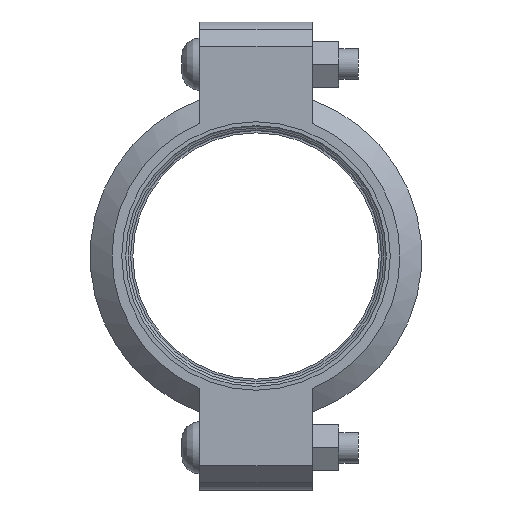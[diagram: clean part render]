
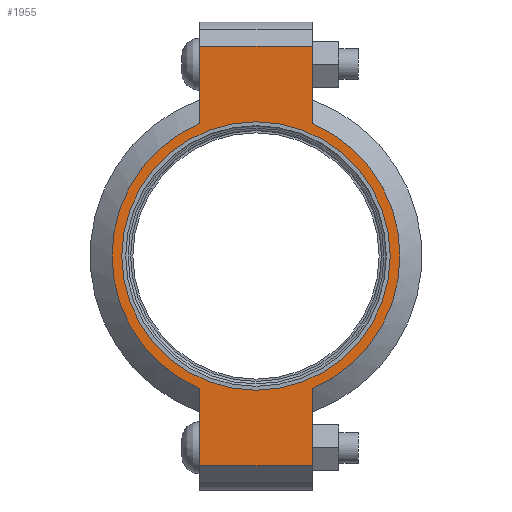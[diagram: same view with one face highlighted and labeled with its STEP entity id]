
A CAD part, left-side view. The second image highlights one B-rep face of the part: STEP entity #1955.
In plain terms, the highlighted planar face has unit normal (-1, 0, 0) as drawn and (0, 0, 1) by its records, which use the part's own axes.
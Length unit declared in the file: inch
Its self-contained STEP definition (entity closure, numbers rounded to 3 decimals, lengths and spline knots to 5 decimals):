
#144=LINE('',#3465,#241);
#152=LINE('',#3501,#249);
#159=LINE('',#3522,#256);
#168=LINE('',#3554,#265);
#169=LINE('',#3558,#266);
#170=LINE('',#3560,#267);
#241=VECTOR('',#2825,0.3937);
#249=VECTOR('',#2841,0.3937);
#256=VECTOR('',#2860,0.3937);
#265=VECTOR('',#2885,0.3937);
#266=VECTOR('',#2890,0.3937);
#267=VECTOR('',#2891,0.3937);
#323=FACE_BOUND('',#573,.T.);
#367=PLANE('',#2294);
#455=FACE_OUTER_BOUND('',#572,.T.);
#572=EDGE_LOOP('',(#1676,#1677,#1678,#1679,#1680,#1681,#1682,#1683));
#573=EDGE_LOOP('',(#1684));
#745=CIRCLE('',#2295,2.95);
#746=CIRCLE('',#2296,2.95);
#747=CIRCLE('',#2297,2.75);
#909=VERTEX_POINT('',#3462);
#910=VERTEX_POINT('',#3464);
#921=VERTEX_POINT('',#3496);
#922=VERTEX_POINT('',#3500);
#929=VERTEX_POINT('',#3519);
#930=VERTEX_POINT('',#3521);
#940=VERTEX_POINT('',#3557);
#941=VERTEX_POINT('',#3559);
#942=VERTEX_POINT('',#3562);
#1154=EDGE_CURVE('',#910,#909,#144,.T.);
#1168=EDGE_CURVE('',#922,#921,#152,.T.);
#1178=EDGE_CURVE('',#930,#929,#159,.T.);
#1193=EDGE_CURVE('',#922,#909,#168,.T.);
#1194=EDGE_CURVE('',#921,#930,#745,.T.);
#1195=EDGE_CURVE('',#940,#929,#169,.T.);
#1196=EDGE_CURVE('',#940,#941,#170,.T.);
#1197=EDGE_CURVE('',#941,#910,#746,.T.);
#1198=EDGE_CURVE('',#942,#942,#747,.T.);
#1676=ORIENTED_EDGE('',*,*,#1193,.F.);
#1677=ORIENTED_EDGE('',*,*,#1168,.T.);
#1678=ORIENTED_EDGE('',*,*,#1194,.T.);
#1679=ORIENTED_EDGE('',*,*,#1178,.T.);
#1680=ORIENTED_EDGE('',*,*,#1195,.F.);
#1681=ORIENTED_EDGE('',*,*,#1196,.T.);
#1682=ORIENTED_EDGE('',*,*,#1197,.T.);
#1683=ORIENTED_EDGE('',*,*,#1154,.T.);
#1684=ORIENTED_EDGE('',*,*,#1198,.T.);
#1955=ADVANCED_FACE('',(#455,#323),#367,.T.);
#2294=AXIS2_PLACEMENT_3D('',#3555,#2886,#2887);
#2295=AXIS2_PLACEMENT_3D('',#3556,#2888,#2889);
#2296=AXIS2_PLACEMENT_3D('',#3561,#2892,#2893);
#2297=AXIS2_PLACEMENT_3D('',#3563,#2894,#2895);
#2825=DIRECTION('',(1.,0.,0.));
#2841=DIRECTION('',(-1.,0.,0.));
#2860=DIRECTION('',(-1.,0.,0.));
#2885=DIRECTION('',(0.,-1.,0.));
#2886=DIRECTION('center_axis',(0.,0.,1.));
#2887=DIRECTION('ref_axis',(-1.,0.,0.));
#2888=DIRECTION('center_axis',(0.,0.,1.));
#2889=DIRECTION('ref_axis',(1.,0.,0.));
#2890=DIRECTION('',(0.,1.,0.));
#2891=DIRECTION('',(1.,0.,0.));
#2892=DIRECTION('center_axis',(0.,0.,1.));
#2893=DIRECTION('ref_axis',(1.,0.,0.));
#2894=DIRECTION('center_axis',(0.,0.,-1.));
#2895=DIRECTION('ref_axis',(1.,0.,0.));
#3462=CARTESIAN_POINT('',(4.295,-1.15,1.065));
#3464=CARTESIAN_POINT('',(2.71662,-1.15,1.065));
#3465=CARTESIAN_POINT('',(4.795,-1.15,1.065));
#3496=CARTESIAN_POINT('',(2.71662,1.15,1.065));
#3500=CARTESIAN_POINT('',(4.295,1.15,1.065));
#3501=CARTESIAN_POINT('',(-4.795,1.15,1.065));
#3519=CARTESIAN_POINT('',(-4.295,1.15,1.065));
#3521=CARTESIAN_POINT('',(-2.71662,1.15,1.065));
#3522=CARTESIAN_POINT('',(-4.795,1.15,1.065));
#3554=CARTESIAN_POINT('',(4.295,-0.575,1.065));
#3555=CARTESIAN_POINT('Origin',(0.,0.,
1.065));
#3556=CARTESIAN_POINT('Origin',(0.,0.,1.065));
#3557=CARTESIAN_POINT('',(-4.295,-1.15,1.065));
#3558=CARTESIAN_POINT('',(-4.295,0.575,1.065));
#3559=CARTESIAN_POINT('',(-2.71662,-1.15,1.065));
#3560=CARTESIAN_POINT('',(4.795,-1.15,1.065));
#3561=CARTESIAN_POINT('Origin',(0.,0.,1.065));
#3562=CARTESIAN_POINT('',(-2.75,0.,1.065));
#3563=CARTESIAN_POINT('Origin',(0.,0.,1.065));
